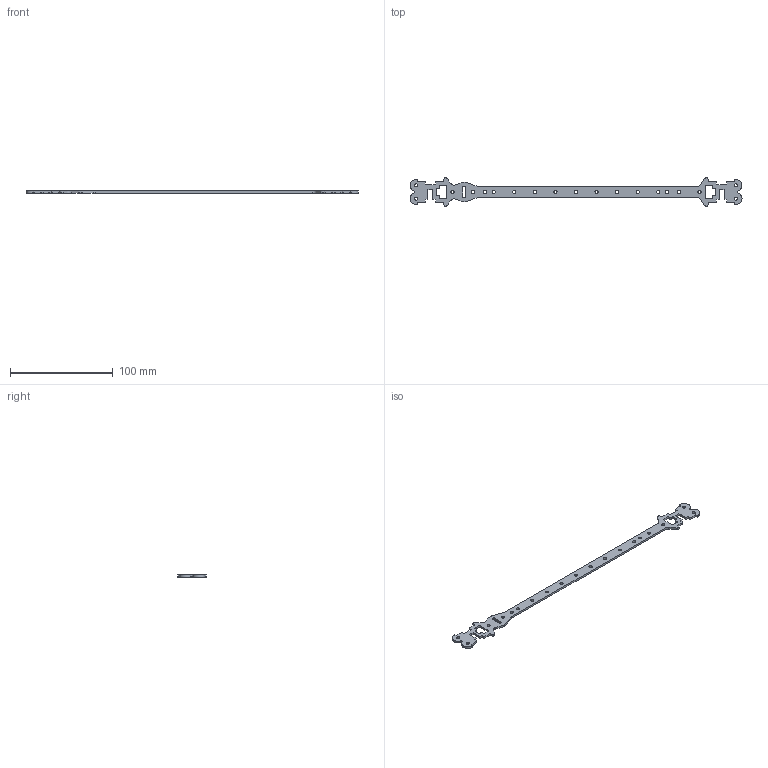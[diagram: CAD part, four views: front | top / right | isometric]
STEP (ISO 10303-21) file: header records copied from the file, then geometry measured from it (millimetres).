
FILE_DESCRIPTION((''),'2;1');
FILE_NAME('D:\Universal Air\Development\R10\CAD\V5\CAD Release 1\Side.stp','2013-06-02T10:24:09',('Henry'),(''),'Autodesk Inventor 2013','Autodesk Inventor 2013','');
FILE_SCHEMA(('AUTOMOTIVE_DESIGN { 1 0 10303 214 1 1 1 1 }'));
Length unit declared in the file: millimetre
Products named in the file (1): Side
Bounding box: 322.57 x 27.71 x 2 mm (x, y, z)
Volume: 7523.6 mm3; surface area: 9683.9 mm2
Topology: 1 solids, 1 shells, 177 faces, 544 edges, 369 vertices
Faces by surface type: cylinder 95, plane 82
Full cylindrical faces by diameter (mm): 3.1 x19
Entity records: 6008 total; most frequent: DIRECTION 1052, CARTESIAN_POINT 1034, ORIENTED_EDGE 1012, EDGE_CURVE 506, AXIS2_PLACEMENT_3D 368, VERTEX_POINT 350, VECTOR 316, LINE 316
